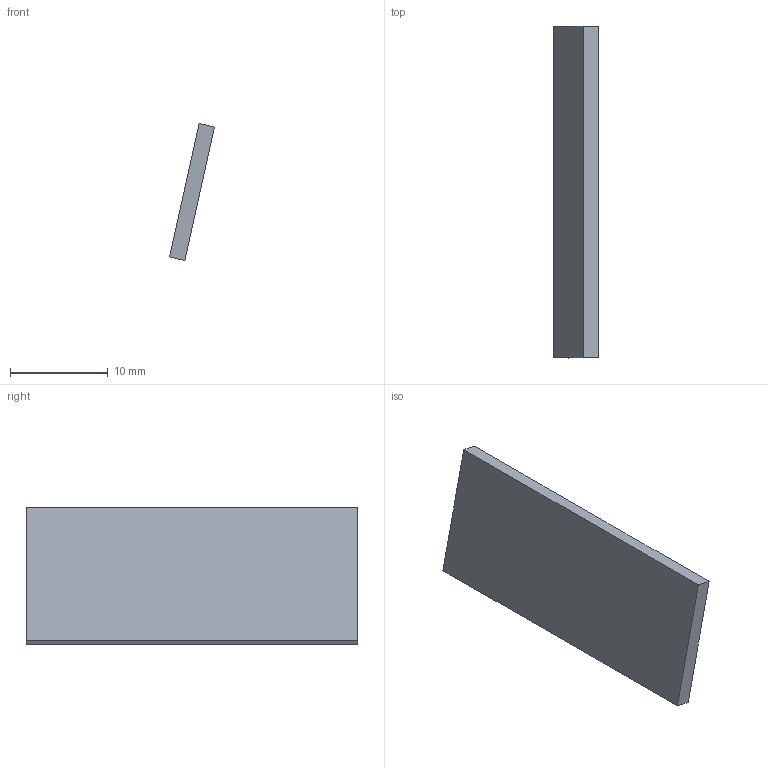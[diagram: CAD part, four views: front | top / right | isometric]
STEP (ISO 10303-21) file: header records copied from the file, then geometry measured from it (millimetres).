
FILE_DESCRIPTION(('Open CASCADE Model'),'2;1');
FILE_NAME('Open CASCADE Shape Model','2026-10-16T05:25:08',('Author'),( 'Open CASCADE'),'Open CASCADE STEP processor 7.9','Open CASCADE 7.9' ,'Unknown');
FILE_SCHEMA(('AUTOMOTIVE_DESIGN { 1 0 10303 214 1 1 1 1 }'));
Length unit declared in the file: millimetre
Products named in the file (1): Open CASCADE STEP translator 7.9 6
Bounding box: 4.59 x 34 x 14.01 mm (x, y, z)
Volume: 761.6 mm3; surface area: 1105.6 mm2
Topology: 1 solids, 1 shells, 6 faces, 12 edges, 8 vertices
Faces by surface type: plane 6
Entity records: 322 total; most frequent: CARTESIAN_POINT 51, DIRECTION 50, LINE 36, VECTOR 36, ORIENTED_EDGE 24, PCURVE 24, DEFINITIONAL_REPRESENTATION 24, EDGE_CURVE 12
